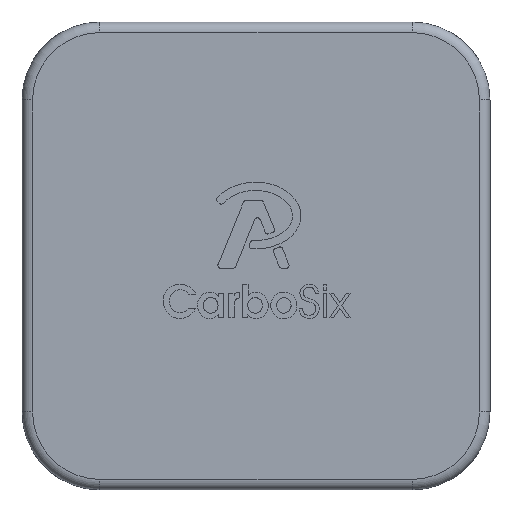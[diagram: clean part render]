
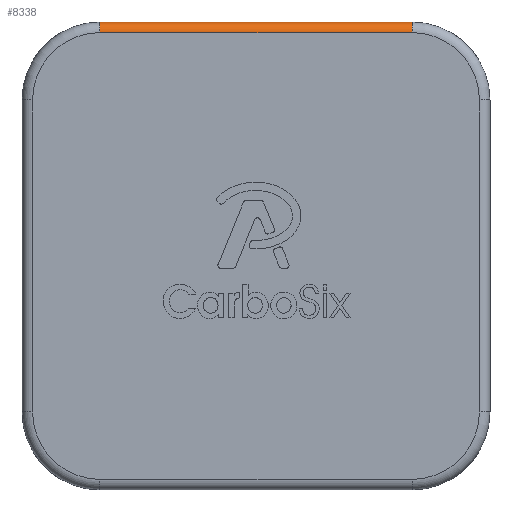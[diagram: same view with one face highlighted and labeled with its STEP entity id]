
A CAD part, top view. The second image highlights one B-rep face of the part: STEP entity #8338.
In plain terms, the highlighted cylindrical face has radius 2 mm (diameter 4 mm), a partial arc.
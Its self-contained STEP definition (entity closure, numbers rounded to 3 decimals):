
#925 = AXIS2_PLACEMENT_3D ( 'NONE', #8754, #5690, #2501 ) ;
#1175 = EDGE_CURVE ( 'NONE', #10792, #2586, #5760, .T. ) ;
#1378 = AXIS2_PLACEMENT_3D ( 'NONE', #8813, #10769, #4832 ) ;
#1923 = VERTEX_POINT ( 'NONE', #3890 ) ;
#1964 = VECTOR ( 'NONE', #7483, 1000. ) ;
#1982 = ORIENTED_EDGE ( 'NONE', *, *, #1175, .F. ) ;
#2224 = ORIENTED_EDGE ( 'NONE', *, *, #10602, .F. ) ;
#2433 = CARTESIAN_POINT ( 'NONE',  ( 30., 42.965, 4. ) ) ;
#2501 = DIRECTION ( 'NONE',  ( 0., 0., 1. ) ) ;
#2586 = VERTEX_POINT ( 'NONE', #2433 ) ;
#3151 = DIRECTION ( 'NONE',  ( -1., 0., 0. ) ) ;
#3555 = ORIENTED_EDGE ( 'NONE', *, *, #11045, .F. ) ;
#3635 = CARTESIAN_POINT ( 'NONE',  ( 7.5, 44.964, 2.035 ) ) ;
#3811 = ORIENTED_EDGE ( 'NONE', *, *, #6121, .F. ) ;
#3890 = CARTESIAN_POINT ( 'NONE',  ( -30., 44.964, 2.035 ) ) ;
#4261 = CARTESIAN_POINT ( 'NONE',  ( 0., 42.965, 2. ) ) ;
#4832 = DIRECTION ( 'NONE',  ( 0., 0., -1. ) ) ;
#4885 = CIRCLE ( 'NONE', #925, 2. ) ;
#5055 = VERTEX_POINT ( 'NONE', #6204 ) ;
#5241 = DIRECTION ( 'NONE',  ( 0., 0., 1. ) ) ;
#5283 = EDGE_LOOP ( 'NONE', ( #1982, #3811, #3555, #2224 ) ) ;
#5690 = DIRECTION ( 'NONE',  ( -1., 0., 0. ) ) ;
#5760 = CIRCLE ( 'NONE', #1378, 2. ) ;
#5800 = DIRECTION ( 'NONE',  ( 1., 0., 0. ) ) ;
#6121 = EDGE_CURVE ( 'NONE', #1923, #10792, #10812, .T. ) ;
#6143 = FACE_OUTER_BOUND ( 'NONE', #5283, .T. ) ;
#6204 = CARTESIAN_POINT ( 'NONE',  ( -30., 42.965, 4. ) ) ;
#6596 = VECTOR ( 'NONE', #5800, 1000. ) ;
#7483 = DIRECTION ( 'NONE',  ( -1., 0., 0. ) ) ;
#8231 = CYLINDRICAL_SURFACE ( 'NONE', #11803, 2. ) ;
#8338 = ADVANCED_FACE ( 'NONE', ( #6143 ), #8231, .T. ) ;
#8754 = CARTESIAN_POINT ( 'NONE',  ( -30., 42.965, 2. ) ) ;
#8813 = CARTESIAN_POINT ( 'NONE',  ( 30., 42.965, 2. ) ) ;
#9515 = CARTESIAN_POINT ( 'NONE',  ( -7.5, 42.965, 4. ) ) ;
#10602 = EDGE_CURVE ( 'NONE', #2586, #5055, #11400, .T. ) ;
#10741 = CARTESIAN_POINT ( 'NONE',  ( 30., 44.964, 2.035 ) ) ;
#10769 = DIRECTION ( 'NONE',  ( 1., 0., 0. ) ) ;
#10792 = VERTEX_POINT ( 'NONE', #10741 ) ;
#10812 = LINE ( 'NONE', #3635, #6596 ) ;
#11045 = EDGE_CURVE ( 'NONE', #5055, #1923, #4885, .T. ) ;
#11400 = LINE ( 'NONE', #9515, #1964 ) ;
#11803 = AXIS2_PLACEMENT_3D ( 'NONE', #4261, #3151, #5241 ) ;
